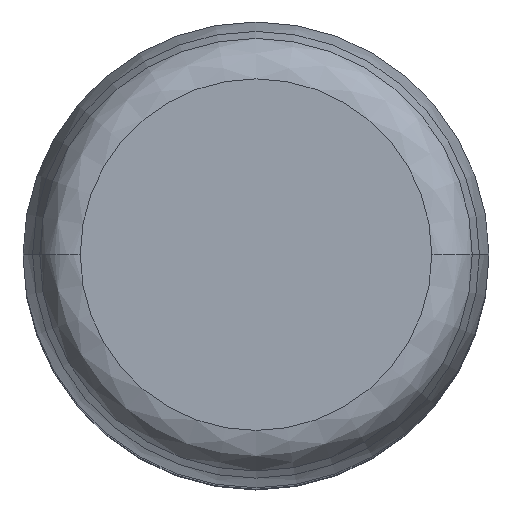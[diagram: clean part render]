
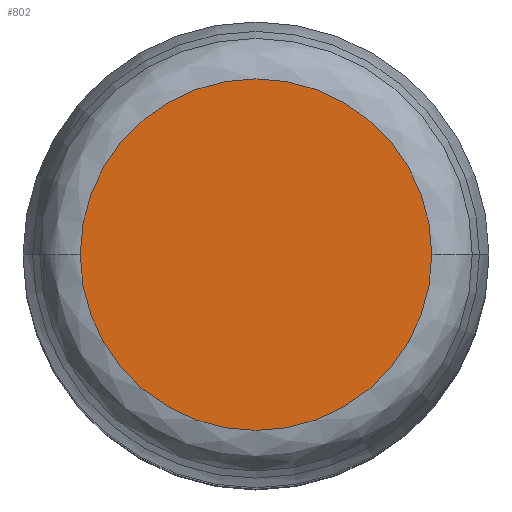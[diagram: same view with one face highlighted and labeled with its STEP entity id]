
A CAD part, top view. The second image highlights one B-rep face of the part: STEP entity #802.
In plain terms, the highlighted planar face has unit normal (0, 0, 1).
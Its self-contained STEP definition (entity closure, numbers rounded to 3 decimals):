
#149=VERTEX_POINT(' ',#150);
#150=CARTESIAN_POINT('',(-18.868,0.,160.));
#151=VERTEX_POINT(' ',#152);
#152=CARTESIAN_POINT('',(18.868,0.,160.));
#445=CIRCLE('',#446,18.868);
#446=AXIS2_PLACEMENT_3D('',#447,#448,#449);
#447=CARTESIAN_POINT('',(0.,0.,160.));
#448=DIRECTION('',(0.,0.,1.));
#449=DIRECTION('',(0.,1.,0.));
#450=EDGE_CURVE(' ',#151,#149,#445,.F.);
#451=CIRCLE('',#452,18.868);
#452=AXIS2_PLACEMENT_3D('',#453,#454,#455);
#453=CARTESIAN_POINT('',(0.,0.,160.));
#454=DIRECTION('',(0.,0.,1.));
#455=DIRECTION('',(0.,-1.,0.));
#456=EDGE_CURVE(' ',#149,#151,#451,.F.);
#793=ORIENTED_EDGE('',*,*,#450,.F.);
#794=ORIENTED_EDGE('',*,*,#456,.F.);
#795=EDGE_LOOP('',(#793,#794));
#796=FACE_OUTER_BOUND('',#795,.T.);
#797=PLANE('',#798);
#798=AXIS2_PLACEMENT_3D('',#799,#800,#801);
#799=CARTESIAN_POINT('',(0.,0.,160.));
#800=DIRECTION('',(0.,0.,1.));
#801=DIRECTION('',(0.,-1.,0.));
#802=ADVANCED_FACE('',(#796),#797,.T.);
